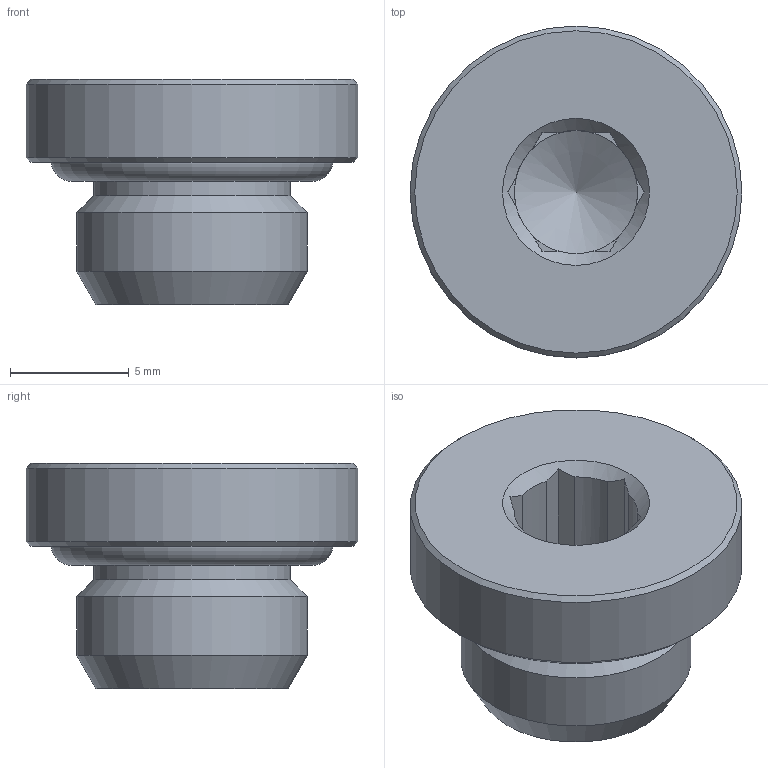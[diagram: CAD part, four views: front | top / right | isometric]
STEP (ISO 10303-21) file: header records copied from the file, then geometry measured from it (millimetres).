
FILE_DESCRIPTION(/* description */ (''),/* implementation_level */ '2;1');
FILE_NAME(/* name */ '30152_107OR_G18_21.09.16',/* time_stamp */ '2016-09-21T10:19:58+02:00',/* author */ (''),/* organization */ (''),/* preprocessor_version */ 'ST-DEVELOPER v16.5',/* originating_system */ 'HiCAD 2016 2101.0 Build 254',/* authorisation */ '');
FILE_SCHEMA (('AUTOMOTIVE_DESIGN { 1 0 10303 214 1 1 1 1 }'));
Length unit declared in the file: millimetre
Products named in the file (3): Root; OR 7.2X1.9; 30152
Assembly tree (2 placements, depth 2):
  Root
    OR 7.2X1.9
    30152
Bounding box: 14 x 14 x 9.5 mm (x, y, z)
Volume: 788 mm3; surface area: 978.4 mm2
Topology: 2 solids, 2 shells, 36 faces, 91 edges, 59 vertices
Faces by surface type: plane 22, cone 7, cylinder 4, torus 3
Full cylindrical faces by diameter (mm): 5.2 x1, 8.3 x1, 9.728 x1, 14 x1
Entity records: 1706 total; most frequent: DIRECTION 188, CARTESIAN_POINT 161, PRESENTATION_STYLE_ASSIGNMENT 140, COLOUR_RGB 140, DRAUGHTING_PRE_DEFINED_CURVE_FONT 138, CURVE_STYLE 138, OVER_RIDING_STYLED_ITEM 138, ORIENTED_EDGE 138
